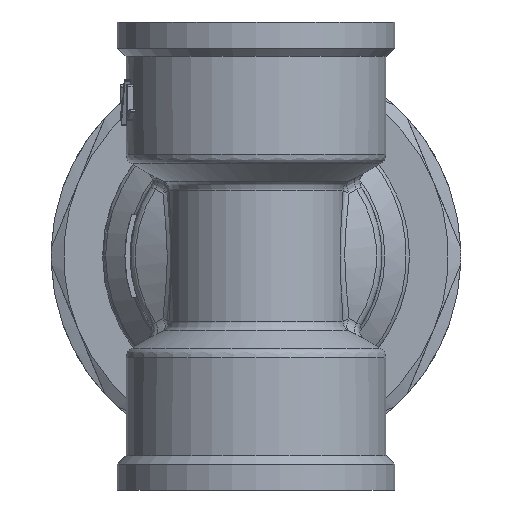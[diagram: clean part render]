
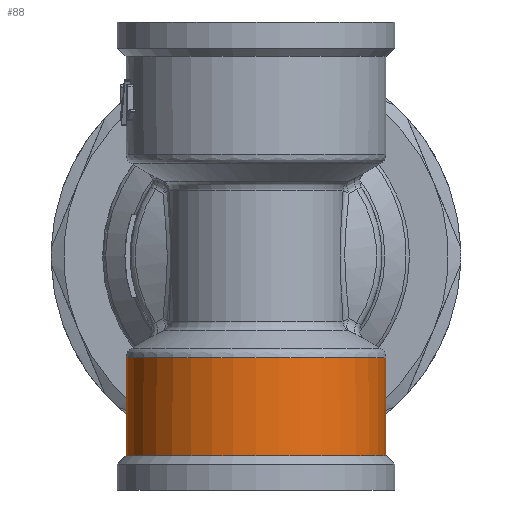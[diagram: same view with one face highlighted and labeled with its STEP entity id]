
A CAD part, front view. The second image highlights one B-rep face of the part: STEP entity #88.
In plain terms, the highlighted cylindrical face has radius 12.5 mm (diameter 25 mm), a full revolution.
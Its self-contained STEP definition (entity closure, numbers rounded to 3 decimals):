
#88=ADVANCED_FACE('',(#724,#726),#728,.T.);
#724=FACE_BOUND('',#725,.T.);
#725=EDGE_LOOP('',(#3180,#3181));
#726=FACE_BOUND('',#727,.T.);
#727=EDGE_LOOP('',(#3182,#3183,#3184,#3185,#3186,#3187,#3188));
#728=CYLINDRICAL_SURFACE('',#729,12.5);
#729=AXIS2_PLACEMENT_3D('',#730,#731,#732);
#730=CARTESIAN_POINT('',(0.,0.,-9.2));
#731=DIRECTION('',(0.,0.,-1.));
#732=DIRECTION('',(0.,-1.,0.));
#3180=ORIENTED_EDGE('',*,*,#4514,.F.);
#3181=ORIENTED_EDGE('',*,*,#4515,.F.);
#3182=ORIENTED_EDGE('',*,*,#4516,.F.);
#3183=ORIENTED_EDGE('',*,*,#4517,.F.);
#3184=ORIENTED_EDGE('',*,*,#4518,.T.);
#3185=ORIENTED_EDGE('',*,*,#4519,.T.);
#3186=ORIENTED_EDGE('',*,*,#4498,.T.);
#3187=ORIENTED_EDGE('',*,*,#4513,.T.);
#3188=ORIENTED_EDGE('',*,*,#4520,.T.);
#4498=EDGE_CURVE('',#5155,#5153,#5156,.T.);
#4513=EDGE_CURVE('',#5153,#5179,#5181,.T.);
#4514=EDGE_CURVE('',#5182,#5183,#5184,.F.);
#4515=EDGE_CURVE('',#5183,#5182,#5185,.F.);
#4516=EDGE_CURVE('',#5186,#5187,#5188,.T.);
#4517=EDGE_CURVE('',#5189,#5186,#5190,.T.);
#4518=EDGE_CURVE('',#5189,#5191,#5192,.T.);
#4519=EDGE_CURVE('',#5191,#5155,#5193,.T.);
#4520=EDGE_CURVE('',#5179,#5187,#5194,.T.);
#5153=VERTEX_POINT('',#6869);
#5155=VERTEX_POINT('',#6897);
#5156=B_SPLINE_CURVE_WITH_KNOTS('',3,
(#6898,#6899,#6900,#6901,#6902,#6903,#6904,#6905,#6906,#6907,#6908,#6909,#6910,#6911,
#6912,#6913,#6914,#6915,#6916,#6917,#6918,#6919,#6920),
.UNSPECIFIED.,.F.,.F.,
(4,1,1,1,1,1,1,1,1,1,1,1,1,1,1,1,1,1,1,1,4),
(0.,0.053,0.102,0.148,0.197,0.248,
0.3,0.353,0.408,0.462,0.516,
0.571,0.625,0.678,0.73,0.78,
0.829,0.874,0.921,0.962,1.),
.UNSPECIFIED.);
#5179=VERTEX_POINT('',#7082);
#5181=B_SPLINE_CURVE_WITH_KNOTS('',3,
(#7100,#7101,#7102,#7103,#7104,#7105,#7106,#7107,#7108,#7109,#7110,#7111),
.UNSPECIFIED.,.F.,.F.,
(4,1,1,1,1,1,1,1,1,4),
(0.,0.158,0.292,0.393,0.503,0.611,
0.721,0.821,0.913,1.),
.UNSPECIFIED.);
#5182=VERTEX_POINT('',#7112);
#5183=VERTEX_POINT('',#7113);
#5184=CIRCLE('',#7114,12.5);
#5185=CIRCLE('',#7118,12.5);
#5186=VERTEX_POINT('',#7122);
#5187=VERTEX_POINT('',#7123);
#5188=CIRCLE('',#7124,12.5);
#5189=VERTEX_POINT('',#7128);
#5190=CIRCLE('',#7129,12.5);
#5191=VERTEX_POINT('',#7133);
#5192=B_SPLINE_CURVE_WITH_KNOTS('',3,
(#7134,#7135,#7136,#7137,#7138,#7139),
.UNSPECIFIED.,.F.,.F.,
(4,1,1,4),
(0.,0.333,0.667,1.),
.UNSPECIFIED.);
#5193=B_SPLINE_CURVE_WITH_KNOTS('',3,
(#7140,#7141,#7142,#7143,#7144,#7145,#7146,#7147,#7148,#7149,#7150,#7151),
.UNSPECIFIED.,.F.,.F.,
(4,1,1,1,1,1,1,1,1,4),
(0.,0.167,0.324,0.466,0.596,0.697,
0.772,0.847,0.923,1.),
.UNSPECIFIED.);
#5194=B_SPLINE_CURVE_WITH_KNOTS('',3,
(#7152,#7153,#7154,#7155,#7156,#7157),
.UNSPECIFIED.,.F.,.F.,
(4,1,1,4),
(0.,0.333,0.667,1.),
.UNSPECIFIED.);
#6869=CARTESIAN_POINT('',(4.721,11.574,-14.281));
#6897=CARTESIAN_POINT('',(-4.721,11.574,-14.281));
#6898=CARTESIAN_POINT('',(-4.721,11.574,-14.281));
#6899=CARTESIAN_POINT('',(-4.586,11.629,-14.395));
#6900=CARTESIAN_POINT('',(-4.313,11.735,-14.602));
#6901=CARTESIAN_POINT('',(-3.891,11.882,-14.855));
#6902=CARTESIAN_POINT('',(-3.458,12.015,-15.065));
#6903=CARTESIAN_POINT('',(-3.006,12.136,-15.243));
#6904=CARTESIAN_POINT('',(-2.519,12.247,-15.394));
#6905=CARTESIAN_POINT('',(-2.009,12.341,-15.516));
#6906=CARTESIAN_POINT('',(-1.479,12.416,-15.608));
#6907=CARTESIAN_POINT('',(-0.936,12.469,-15.671));
#6908=CARTESIAN_POINT('',(-0.386,12.498,-15.704));
#6909=CARTESIAN_POINT('',(0.167,12.503,-15.71));
#6910=CARTESIAN_POINT('',(0.717,12.483,-15.687));
#6911=CARTESIAN_POINT('',(1.261,12.44,-15.637));
#6912=CARTESIAN_POINT('',(1.791,12.375,-15.557));
#6913=CARTESIAN_POINT('',(2.302,12.29,-15.45));
#6914=CARTESIAN_POINT('',(2.789,12.188,-15.315));
#6915=CARTESIAN_POINT('',(3.243,12.075,-15.154));
#6916=CARTESIAN_POINT('',(3.673,11.951,-14.966));
#6917=CARTESIAN_POINT('',(4.065,11.823,-14.755));
#6918=CARTESIAN_POINT('',(4.417,11.695,-14.526));
#6919=CARTESIAN_POINT('',(4.624,11.614,-14.363));
#6920=CARTESIAN_POINT('',(4.721,11.574,-14.281));
#7082=CARTESIAN_POINT('',(7.93,9.663,-9.913));
#7100=CARTESIAN_POINT('',(4.721,11.574,-14.281));
#7101=CARTESIAN_POINT('',(4.936,11.486,-14.088));
#7102=CARTESIAN_POINT('',(5.332,11.312,-13.733));
#7103=CARTESIAN_POINT('',(5.815,11.068,-13.204));
#7104=CARTESIAN_POINT('',(6.216,10.848,-12.72));
#7105=CARTESIAN_POINT('',(6.564,10.64,-12.257));
#7106=CARTESIAN_POINT('',(6.9,10.426,-11.767));
#7107=CARTESIAN_POINT('',(7.206,10.216,-11.277));
#7108=CARTESIAN_POINT('',(7.478,10.018,-10.799));
#7109=CARTESIAN_POINT('',(7.719,9.834,-10.351));
#7110=CARTESIAN_POINT('',(7.858,9.722,-10.054));
#7111=CARTESIAN_POINT('',(7.93,9.663,-9.913));
#7112=CARTESIAN_POINT('',(0.,-12.5,-19.2));
#7113=CARTESIAN_POINT('',(12.5,0.,-19.2));
#7114=AXIS2_PLACEMENT_3D('',#7115,#7116,#7117);
#7115=CARTESIAN_POINT('',(0.,0.,-19.2));
#7116=DIRECTION('',(0.,0.,1.));
#7117=DIRECTION('',(1.,0.,0.));
#7118=AXIS2_PLACEMENT_3D('',#7119,#7120,#7121);
#7119=CARTESIAN_POINT('',(0.,0.,-19.2));
#7120=DIRECTION('',(0.,0.,1.));
#7121=DIRECTION('',(0.,-1.,0.));
#7122=CARTESIAN_POINT('',(0.,-12.5,-9.777));
#7123=CARTESIAN_POINT('',(8.073,9.544,-9.777));
#7124=AXIS2_PLACEMENT_3D('',#7125,#7126,#7127);
#7125=CARTESIAN_POINT('',(0.,0.,-9.777));
#7126=DIRECTION('',(0.,0.,1.));
#7127=DIRECTION('',(0.,-1.,0.));
#7128=CARTESIAN_POINT('',(-8.073,9.544,-9.777));
#7129=AXIS2_PLACEMENT_3D('',#7130,#7131,#7132);
#7130=CARTESIAN_POINT('',(0.,0.,-9.777));
#7131=DIRECTION('',(0.,0.,1.));
#7132=DIRECTION('',(-0.646,0.763,0.));
#7133=CARTESIAN_POINT('',(-7.93,9.663,-9.913));
#7134=CARTESIAN_POINT('',(-8.073,9.544,-9.777));
#7135=CARTESIAN_POINT('',(-8.057,9.557,-9.792));
#7136=CARTESIAN_POINT('',(-8.025,9.584,-9.823));
#7137=CARTESIAN_POINT('',(-7.978,9.623,-9.868));
#7138=CARTESIAN_POINT('',(-7.946,9.65,-9.898));
#7139=CARTESIAN_POINT('',(-7.93,9.663,-9.913));
#7140=CARTESIAN_POINT('',(-7.93,9.663,-9.913));
#7141=CARTESIAN_POINT('',(-7.798,9.771,-10.188));
#7142=CARTESIAN_POINT('',(-7.531,9.981,-10.716));
#7143=CARTESIAN_POINT('',(-7.105,10.289,-11.45));
#7144=CARTESIAN_POINT('',(-6.676,10.572,-12.102));
#7145=CARTESIAN_POINT('',(-6.274,10.814,-12.647));
#7146=CARTESIAN_POINT('',(-5.923,11.01,-13.076));
#7147=CARTESIAN_POINT('',(-5.62,11.167,-13.417));
#7148=CARTESIAN_POINT('',(-5.336,11.305,-13.714));
#7149=CARTESIAN_POINT('',(-5.038,11.441,-14.003));
#7150=CARTESIAN_POINT('',(-4.827,11.531,-14.187));
#7151=CARTESIAN_POINT('',(-4.721,11.574,-14.281));
#7152=CARTESIAN_POINT('',(7.93,9.663,-9.913));
#7153=CARTESIAN_POINT('',(7.946,9.65,-9.898));
#7154=CARTESIAN_POINT('',(7.978,9.623,-9.868));
#7155=CARTESIAN_POINT('',(8.025,9.584,-9.823));
#7156=CARTESIAN_POINT('',(8.057,9.557,-9.792));
#7157=CARTESIAN_POINT('',(8.073,9.544,-9.777));
